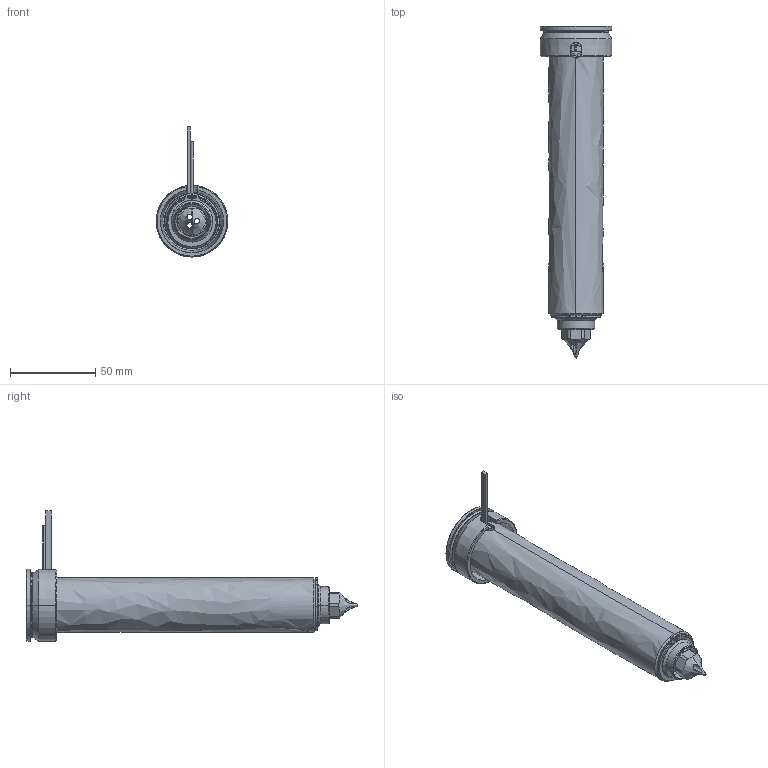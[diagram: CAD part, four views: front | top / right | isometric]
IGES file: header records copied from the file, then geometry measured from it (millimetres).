
Start section: SolidWorks IGES file using analytic representation for surfaces
Global section: file name: C:\Users\luca.EMPAD\Desktop\TEM\UGDL3615-S-A-1 [Øf=1.0 ØC=09].IGS; native system: SolidWorks 2012; preprocessor: SolidWorks 2012; author: luca; date: 120330.155709; units: millimetre
Bounding box: 42 x 194.8 x 76.3 mm (x, y, z)
Surface area: 61930.4 mm2 (no closed solid volume)
Topology: 0 solids, 0 shells, 124 faces, 2228 edges, 2228 vertices
Faces by surface type: revolution 79, bspline 45
